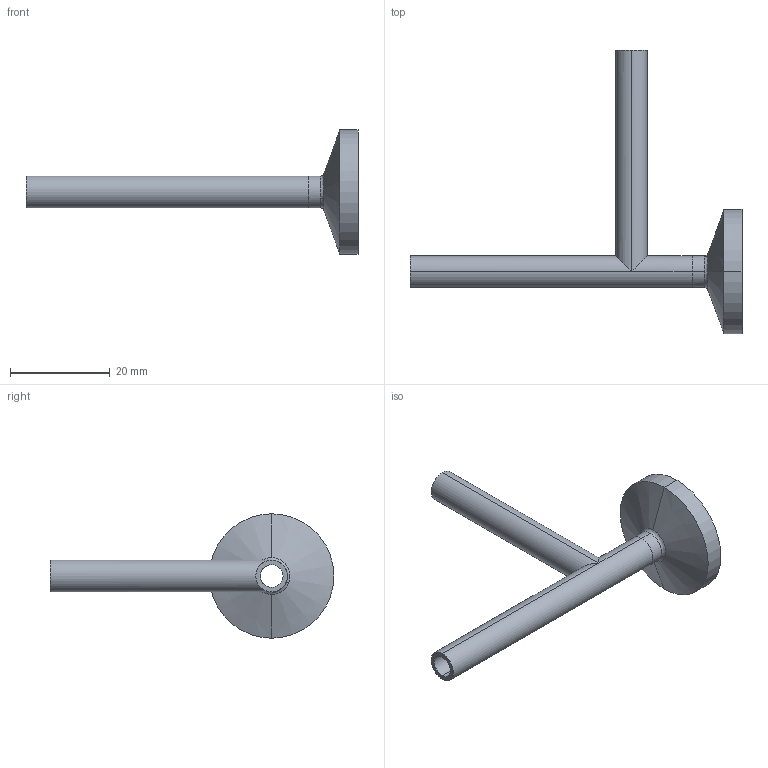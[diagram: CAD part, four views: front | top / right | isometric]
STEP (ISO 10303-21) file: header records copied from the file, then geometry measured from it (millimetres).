
FILE_DESCRIPTION (( 'STEP AP214' ), '1' );
FILE_NAME ('TE7WCSW6L.25-...STEP', '2016-05-24T11:39:06', ( 'eran' ), ( '' ), 'SwSTEP 2.0', 'SolidWorks 2016', '' );
FILE_SCHEMA (( 'AUTOMOTIVE_DESIGN' ));
Length unit declared in the file: millimetre
Products named in the file (1): TE7WCSW6L.25-..
Bounding box: 66.7 x 57 x 24.99 mm (x, y, z)
Volume: 3526.2 mm3; surface area: 4994.4 mm2
Topology: 2 solids, 2 shells, 36 faces, 86 edges, 54 vertices
Faces by surface type: cylinder 18, bspline 8, plane 6, cone 4
Entity records: 1207 total; most frequent: CARTESIAN_POINT 321, DIRECTION 190, ORIENTED_EDGE 172, EDGE_CURVE 86, AXIS2_PLACEMENT_3D 83, VERTEX_POINT 54, CIRCLE 54, EDGE_LOOP 42
